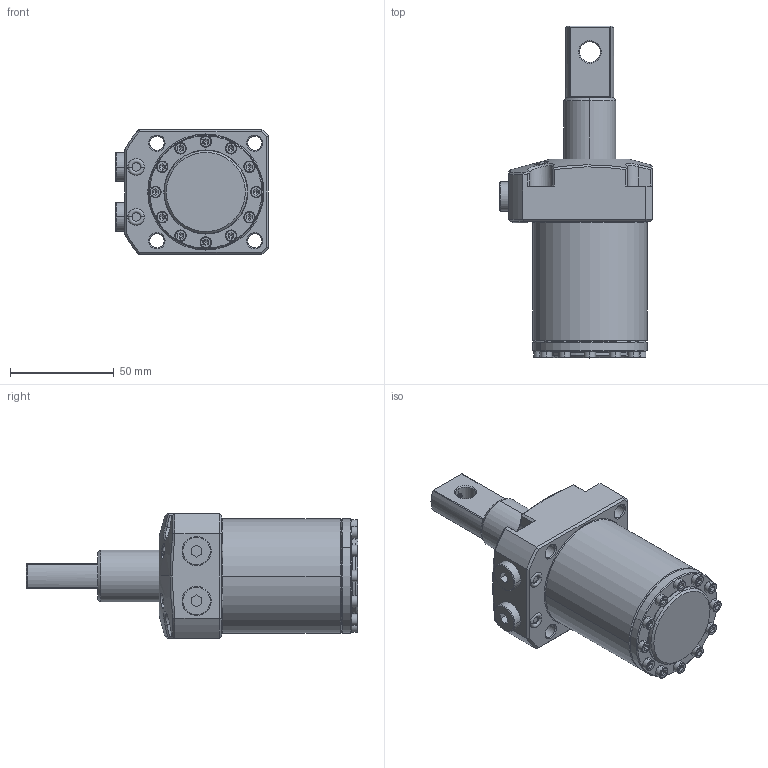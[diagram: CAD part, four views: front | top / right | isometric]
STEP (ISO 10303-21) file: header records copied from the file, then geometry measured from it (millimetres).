
FILE_DESCRIPTION((''),'2;1');
FILE_NAME('SIMP_GENERIC_SWING_CYD_55_PIN_ASM','2023-04-16T14:23:32',('Design 2'),(''),'CREO PARAMETRIC BY PTC INC, 2020053','CREO PARAMETRIC BY PTC INC, 2020053','');
FILE_SCHEMA(('CONFIG_CONTROL_DESIGN'));
Length unit declared in the file: millimetre
Products named in the file (13): BODY___; BODY_TOP_FLG____ASM; PIN_PISTON_; PISTON_ASM____ASM; SWINGER_ARM___; SWINGER_ARM_ASM____ASM; 1___; 2___; HALDER_SEALING-PLUG-228800__ASM; STATIC-O-RING-8X2S_; ISHCS03X10_; G-1-8-CLOSE_PLUGE_; SIMP_GENERIC_SWING_CYD_55_PIN_ASM
Assembly tree (26 placements, depth 3):
  SIMP_GENERIC_SWING_CYD_55_PIN_ASM
    BODY_TOP_FLG____ASM
      BODY___
    PISTON_ASM____ASM
      PIN_PISTON_
    SWINGER_ARM_ASM____ASM
      SWINGER_ARM___
    HALDER_SEALING-PLUG-228800__ASM  x2
      1___
      2___
    STATIC-O-RING-8X2S_  x2
    ISHCS03X10_  x12
    G-1-8-CLOSE_PLUGE_  x2
Bounding box: 73.3 x 159.6 x 60 mm (x, y, z)
Volume: 269629.6 mm3; surface area: 54843.6 mm2
Topology: 23 solids, 23 shells, 868 faces, 1915 edges, 1103 vertices
Faces by surface type: plane 274, cylinder 255, cone 254, torus 40, bspline 39, sphere 6
Entity records: 16340 total; most frequent: CARTESIAN_POINT 5925, DIRECTION 2161, ORIENTED_EDGE 2050, EDGE_CURVE 1025, AXIS2_PLACEMENT_3D 851, VERTEX_POINT 613, EDGE_LOOP 516, VECTOR 459
